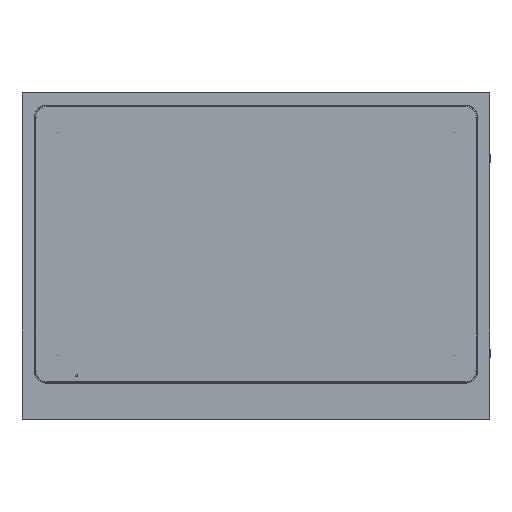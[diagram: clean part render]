
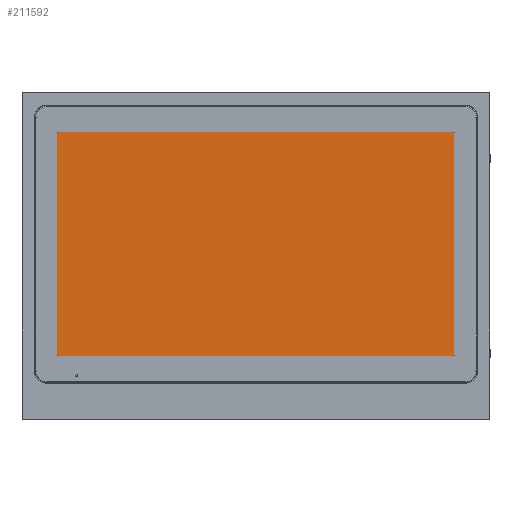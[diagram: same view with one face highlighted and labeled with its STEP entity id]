
A CAD part, top view. The second image highlights one B-rep face of the part: STEP entity #211592.
In plain terms, the highlighted planar face has unit normal (0, 0, 1).
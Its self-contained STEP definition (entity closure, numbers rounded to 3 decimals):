
#17937=FACE_OUTER_BOUND('',#29311,.T.);
#29311=EDGE_LOOP('',(#175533,#175534,#175535,#175536));
#52508=LINE('',#367092,#73574);
#52511=LINE('',#367098,#73577);
#52514=LINE('',#367104,#73580);
#52517=LINE('',#367108,#73583);
#73574=VECTOR('',#267910,10.);
#73577=VECTOR('',#267915,10.);
#73580=VECTOR('',#267920,10.);
#73583=VECTOR('',#267925,10.);
#93512=VERTEX_POINT('',#367089);
#93513=VERTEX_POINT('',#367091);
#93515=VERTEX_POINT('',#367097);
#93517=VERTEX_POINT('',#367103);
#121601=EDGE_CURVE('',#93513,#93512,#52508,.T.);
#121604=EDGE_CURVE('',#93515,#93513,#52511,.T.);
#121607=EDGE_CURVE('',#93517,#93515,#52514,.T.);
#121610=EDGE_CURVE('',#93512,#93517,#52517,.T.);
#175533=ORIENTED_EDGE('',*,*,#121601,.T.);
#175534=ORIENTED_EDGE('',*,*,#121610,.T.);
#175535=ORIENTED_EDGE('',*,*,#121607,.T.);
#175536=ORIENTED_EDGE('',*,*,#121604,.T.);
#191643=PLANE('',#225028);
#211592=ADVANCED_FACE('',(#17937),#191643,.T.);
#225028=AXIS2_PLACEMENT_3D('',#367191,#268014,#268015);
#267910=DIRECTION('',(1.,0.,0.));
#267915=DIRECTION('',(0.,-1.,0.));
#267920=DIRECTION('',(-1.,0.,0.));
#267925=DIRECTION('',(0.,1.,0.));
#268014=DIRECTION('center_axis',(0.,0.,
1.));
#268015=DIRECTION('ref_axis',(-1.,0.,0.));
#367089=CARTESIAN_POINT('',(204.85,-103.1,6.199));
#367091=CARTESIAN_POINT('',(-205.35,-103.1,6.199));
#367092=CARTESIAN_POINT('',(-0.125,-103.1,6.199));
#367097=CARTESIAN_POINT('',(-205.35,127.7,6.199));
#367098=CARTESIAN_POINT('',(-205.35,-45.45,6.199));
#367103=CARTESIAN_POINT('',(204.85,127.7,6.199));
#367104=CARTESIAN_POINT('',(-102.675,127.7,6.199));
#367108=CARTESIAN_POINT('',(204.85,12.25,6.199));
#367191=CARTESIAN_POINT('Origin',(0.,12.2,
6.199));
